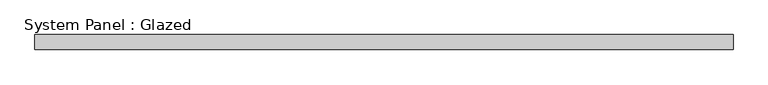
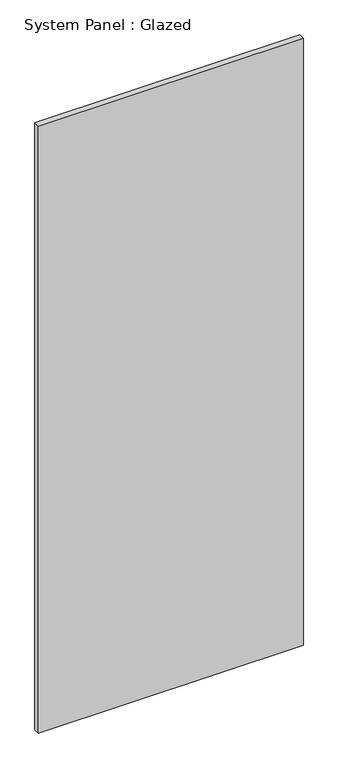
"""IFC4 building model written with IfcOpenShell, lengths in millimetres: plate geometry, System Panel : Glazed."""

import ifcopenshell
import ifcopenshell.guid

model = None  # the IFC model being written
_history = None  # IfcOwnerHistory: only IFC2X3 demands one
_inside = {}  # id of a spatial element -> (the spatial element, [elements in it])
_under = {}  # id of a project, library or spatial element -> (it, [spatial elements below it])
_declared = {}  # id of a project -> (the project, [libraries it declares])
_typed = {}  # id of a type object -> (the type object, [elements of that type])
_made_of = {}  # id of a material, layer set ... -> (it, [elements and type objects made of it])


def new_model(schema):
    """Start an empty IFC model of exactly this schema.

    Asked for "IFC4X3", IfcOpenShell would pick the latest addendum, in which some entities
    have other attributes; the version numbers below select the first issue.
    IFC2X3 requires an IfcOwnerHistory on every rooted entity: one is made here for all.
    """
    global model, _history
    if schema == "IFC4X3":
        model = ifcopenshell.file(schema_version=(4, 3, 0, 0))
    else:
        model = ifcopenshell.file(schema=schema)
    _inside.clear()
    _under.clear()
    _declared.clear()
    _typed.clear()
    _made_of.clear()
    _history = None
    if model.schema == "IFC2X3":
        org = make("IfcOrganization", Name="unknown")
        user = make(
            "IfcPersonAndOrganization",
            ThePerson=make("IfcPerson", FamilyName="unknown"),
            TheOrganization=org,
        )
        app = make(
            "IfcApplication",
            ApplicationDeveloper=org,
            Version="unknown",
            ApplicationFullName="unknown",
            ApplicationIdentifier="unknown",
        )
        _history = make(
            "IfcOwnerHistory",
            OwningUser=user,
            OwningApplication=app,
            ChangeAction="ADDED",
            CreationDate=0,
        )
    return model


def make(cls, **values):
    """One entity of the class cls with the attributes given. An attribute that is None is left unset."""
    return model.create_entity(
        cls, **{name: value for name, value in values.items() if value is not None}
    )


def rooted(cls, **values):
    """An entity with a GlobalId (a new one), such as an element, a storey or a relation."""
    return make(cls, GlobalId=ifcopenshell.guid.new(), OwnerHistory=_history, **values)


def si_unit(unit_type, name, prefix=None):
    """IfcSIUnit, for example si_unit("LENGTHUNIT", "METRE", prefix="MILLI")."""
    return make("IfcSIUnit", UnitType=unit_type, Prefix=prefix, Name=name)


def assignment(units):
    """IfcUnitAssignment: the units of a project."""
    return None if units is None else make("IfcUnitAssignment", Units=units)


def point(xyz):
    """IfcCartesianPoint."""
    return None if xyz is None else make("IfcCartesianPoint", Coordinates=xyz)


def direction(xyz):
    """IfcDirection."""
    return None if xyz is None else make("IfcDirection", DirectionRatios=xyz)


def frame(location, z_axis=None, x_axis=None):
    """IfcAxis2Placement3D, a coordinate frame: its origin and axes. An axis left out is left unset."""
    return make(
        "IfcAxis2Placement3D",
        Location=point(location),
        Axis=direction(z_axis),
        RefDirection=direction(x_axis),
    )


def origin():
    """The frame at (0, 0, 0) with its axes left unset."""
    return frame((0.0, 0.0, 0.0))


def origin_with_axes():
    """The frame at (0, 0, 0) with the z axis (0, 0, 1) and the x axis (1, 0, 0) written out."""
    return frame((0.0, 0.0, 0.0), z_axis=(0.0, 0.0, 1.0), x_axis=(1.0, 0.0, 0.0))


def place(relative_to, where):
    """IfcLocalPlacement: puts the frame where relative to a parent placement (None: the world)."""
    return make(
        "IfcLocalPlacement", PlacementRelTo=relative_to, RelativePlacement=where
    )


def context(
    kind, dimensions, precision=None, world=None, true_north=None, identifier=None
):
    """IfcGeometricRepresentationContext, for example the 3D "Model" context."""
    return make(
        "IfcGeometricRepresentationContext",
        ContextIdentifier=identifier,
        ContextType=kind,
        CoordinateSpaceDimension=dimensions,
        Precision=precision,
        WorldCoordinateSystem=world,
        TrueNorth=true_north,
    )


def project(units=None, contexts=None):
    """IfcProject with its units and contexts."""
    return rooted(
        "IfcProject",
        Name="project",
        RepresentationContexts=contexts,
        UnitsInContext=assignment(units),
    )


def spatial(cls, under=None, at=None, **own):
    """A site, building, storey or space (cls), placed at a placement, below another one or the project."""
    s = rooted(cls, ObjectPlacement=at, **own)
    if under is not None:
        _under.setdefault(under.id(), (under, []))[1].append(s)
    return s


def polyline(points):
    """IfcPolyline through the points."""
    return make("IfcPolyline", Points=[point(p) for p in points])


def outline(outer, holes=None, kind="AREA"):
    """IfcArbitraryClosedProfileDef: a profile drawn as a closed curve; with holes, ...WithVoids."""
    if holes is None:
        return make("IfcArbitraryClosedProfileDef", ProfileType=kind, OuterCurve=outer)
    return make(
        "IfcArbitraryProfileDefWithVoids",
        ProfileType=kind,
        OuterCurve=outer,
        InnerCurves=holes,
    )


def extrude(swept, where, along, depth):
    """IfcExtrudedAreaSolid: the profile swept, set in the frame where, extruded along a direction by depth."""
    return make(
        "IfcExtrudedAreaSolid",
        SweptArea=swept,
        Position=where,
        ExtrudedDirection=direction(along),
        Depth=depth,
    )


def shape(context_of_items, identifier, shape_type, items):
    """IfcShapeRepresentation: the items that make up one representation, for example the "Body"."""
    return make(
        "IfcShapeRepresentation",
        ContextOfItems=context_of_items,
        RepresentationIdentifier=identifier,
        RepresentationType=shape_type,
        Items=items,
    )


def source(mapping_origin, context_of_items, identifier, shape_type, items):
    """IfcRepresentationMap: a shape defined once, which mapped items show again and again."""
    return make(
        "IfcRepresentationMap",
        MappingOrigin=mapping_origin,
        MappedRepresentation=shape(context_of_items, identifier, shape_type, items),
    )


def transform(
    local_origin,
    x_axis=None,
    y_axis=None,
    z_axis=None,
    scale=None,
    scale2=None,
    scale3=None,
    uniform=True,
):
    """IfcCartesianTransformationOperator3D, or its non-uniform kind. x_axis, y_axis, z_axis: its Axis1, 2, 3."""
    if uniform:
        return make(
            "IfcCartesianTransformationOperator3D",
            Axis1=direction(x_axis),
            Axis2=direction(y_axis),
            LocalOrigin=point(local_origin),
            Scale=scale,
            Axis3=direction(z_axis),
        )
    return make(
        "IfcCartesianTransformationOperator3DnonUniform",
        Axis1=direction(x_axis),
        Axis2=direction(y_axis),
        LocalOrigin=point(local_origin),
        Scale=scale,
        Axis3=direction(z_axis),
        Scale2=scale2,
        Scale3=scale3,
    )


def mapped(mapping_source, mapping_target):
    """IfcMappedItem: shows the shape of a source again, moved by a transform."""
    return make(
        "IfcMappedItem", MappingSource=mapping_source, MappingTarget=mapping_target
    )


def made_of(thing, what):
    """Note that an element or type object is made of a material, layer set ...; save() writes the relation."""
    if what is not None:
        _made_of.setdefault(what.id(), (what, []))[1].append(thing)
    return thing


def element(
    cls,
    number,
    at=None,
    inside=None,
    cuts=None,
    type_object=None,
    material=None,
    context=None,
    identifier="Body",
    shape_type=None,
    held_by="IfcProductDefinitionShape",
    body=None,
    shapes=None,
    **own,
):
    """One element of the class cls, such as IfcWall. Its Tag is "e" and its number.

    at: its placement. inside: the storey or other place that contains it. cuts: it is an
    opening in that element (IfcRelVoidsElement). A single representation is given by context,
    identifier, shape_type and body (its items); several are given by shapes. held_by: the class
    of the entity that holds the representations. save() writes the other relations.
    """
    e = rooted(cls, Tag="e%d" % number, ObjectPlacement=at, **own)
    if body is not None:
        shapes = [shape(context, identifier, shape_type, body)]
    if shapes is not None:
        e.Representation = make(held_by, Representations=shapes)
    if inside is not None:
        _inside.setdefault(inside.id(), (inside, []))[1].append(e)
    if cuts is not None:
        rooted(
            "IfcRelVoidsElement", RelatingBuildingElement=cuts, RelatedOpeningElement=e
        )
    if type_object is not None:
        _typed.setdefault(type_object.id(), (type_object, []))[1].append(e)
    return made_of(e, material)


def aggregate(whole, parts):
    """IfcRelAggregates: a whole, such as a stair, and the parts it consists of."""
    return rooted("IfcRelAggregates", RelatingObject=whole, RelatedObjects=parts)


def save(model, path):
    """Write the relations noted so far, then the file.

    IfcRelAggregates (storeys below a building ...), IfcRelContainedInSpatialStructure (elements
    in a storey), IfcRelDefinesByType, IfcRelAssociatesMaterial and IfcRelDeclares: one each for
    every whole, place, type object, material and project.
    """
    for whole, parts in _under.values():
        aggregate(whole, parts)
    for where, things in _inside.values():
        rooted(
            "IfcRelContainedInSpatialStructure",
            RelatedElements=things,
            RelatingStructure=where,
        )
    for kind, things in _typed.values():
        rooted("IfcRelDefinesByType", RelatedObjects=things, RelatingType=kind)
    for what, things in _made_of.values():
        rooted("IfcRelAssociatesMaterial", RelatedObjects=things, RelatingMaterial=what)
    for by, libraries in _declared.values():
        rooted("IfcRelDeclares", RelatingContext=by, RelatedDefinitions=libraries)
    model.write(path)


def system_panel_glazed_34357b61(model_context):
    return source(origin(), model_context, "Body", "SweptSolid", [
        extrude(outline(polyline([(578.870352, -25.0), (-578.870352, -25.0), (-578.870352, 0.0), (578.870352, 0.0), (578.870352, -25.0)])), origin_with_axes(), (0.0, 0.0, 1.0), 2800.0),
    ])


if __name__ == "__main__":
    model = new_model("IFC4")
    model_context = context("Model", 3, world=origin())
    ifc_project = project(units=[si_unit("LENGTHUNIT", "METRE", prefix="MILLI")], contexts=[model_context])
    site = spatial("IfcSite", under=ifc_project)
    building = spatial("IfcBuilding", under=site)
    placement = place(None, origin())
    system_panel_glazed_shape = system_panel_glazed_34357b61(model_context)
    element("IfcPlate", 1, ObjectType="System Panel : Glazed", at=placement, inside=building, context=model_context, shape_type="MappedRepresentation", body=[
        mapped(system_panel_glazed_shape, transform((0.0, 0.0, 0.0), x_axis=(1.0, 0.0, 0.0), y_axis=(0.0, 1.0, 0.0), z_axis=(0.0, 0.0, 1.0))),
    ])
    save(model, "model.ifc")
